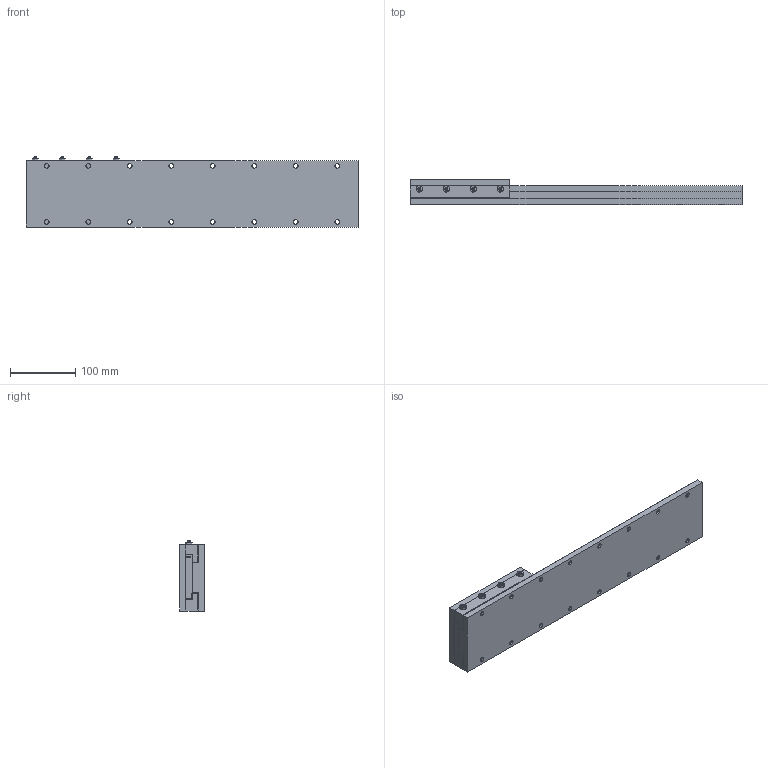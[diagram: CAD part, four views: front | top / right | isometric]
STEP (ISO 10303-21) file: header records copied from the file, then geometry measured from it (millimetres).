
FILE_DESCRIPTION (( 'STEP AP214' ), '1' );
FILE_NAME ('SW04-SL06-BL20.STEP', '2010-10-04T17:48:09', ( ' ' ), ( '' ), 'SwSTEP 2.0', 'SolidWorks 2010', '' );
FILE_SCHEMA (( 'AUTOMOTIVE_DESIGN' ));
Length unit declared in the file: inch
Products named in the file (11): Gen2 Top plate_04x06 TPLATE; Gen2 SADDLE_04x06 SADDLE; Gen2 Gib_04x06 GIB; Gen2 Bar_04x06 BAR; Gen2 Adj Gib_04x06 ADJ GIB; _MSHXNUT_MSHXNUT 0.190-32-D-N; _SSCUPSOC_SSCUPSKT 0.19-32x0.875-HX-N; Gen2 Baseplate_04x20 BASE; Gen2 BASE_04x20 BASE; SW04-SL06-BL20; Gen2 Hardplate_04x20 HPLATE
Assembly tree (16 placements, depth 3):
  SW04-SL06-BL20
    Gen2 SADDLE_04x06 SADDLE
      Gen2 Gib_04x06 GIB
      Gen2 Top plate_04x06 TPLATE
      Gen2 Bar_04x06 BAR
      _SSCUPSOC_SSCUPSKT 0.19-32x0.875-HX-N  x4
      _MSHXNUT_MSHXNUT 0.190-32-D-N  x4
      Gen2 Adj Gib_04x06 ADJ GIB
    Gen2 BASE_04x20 BASE
      Gen2 Hardplate_04x20 HPLATE
      Gen2 Baseplate_04x20 BASE
Bounding box: 508 x 38.1 x 107.16 mm (x, y, z)
Volume: 1285378 mm3; surface area: 310265.8 mm2
Topology: 19 solids, 19 shells, 362 faces, 816 edges, 508 vertices
Faces by surface type: plane 162, cylinder 112, cone 88
Entity records: 7475 total; most frequent: CARTESIAN_POINT 1240, DIRECTION 1210, ORIENTED_EDGE 1052, EDGE_CURVE 526, AXIS2_PLACEMENT_3D 457, VERTEX_POINT 343, EDGE_LOOP 301, VECTOR 296
